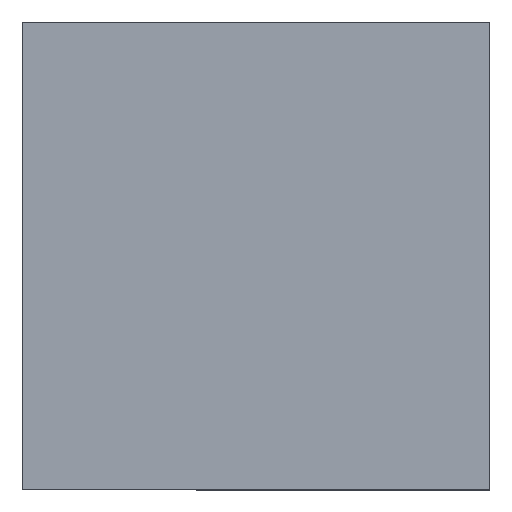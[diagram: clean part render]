
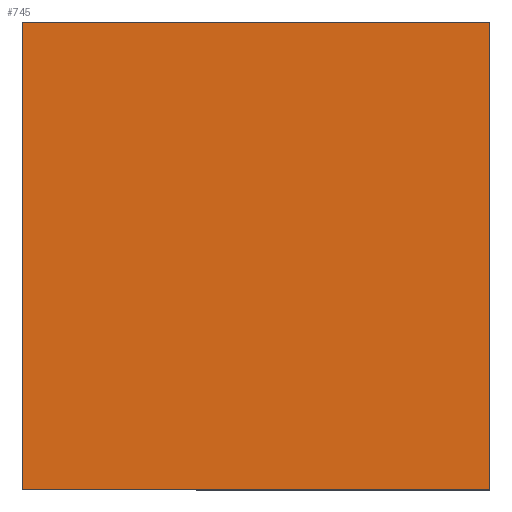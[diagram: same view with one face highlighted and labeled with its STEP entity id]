
A CAD part, top view. The second image highlights one B-rep face of the part: STEP entity #745.
In plain terms, the highlighted planar face has unit normal (0, 0, 1).
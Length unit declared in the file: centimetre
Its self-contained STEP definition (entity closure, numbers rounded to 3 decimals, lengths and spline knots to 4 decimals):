
#38 = LINE ( 'NONE', #429, #449 ) ;
#86 = ORIENTED_EDGE ( 'NONE', *, *, #650, .T. ) ;
#109 = DIRECTION ( 'NONE',  ( -1., 0., 0. ) ) ;
#121 = LINE ( 'NONE', #371, #777 ) ;
#168 = DIRECTION ( 'NONE',  ( 1., 0., 0. ) ) ;
#238 = EDGE_CURVE ( 'NONE', #259, #428, #38, .T. ) ;
#259 = VERTEX_POINT ( 'NONE', #747 ) ;
#278 = CARTESIAN_POINT ( 'NONE',  ( 0., 0., 1000. ) ) ;
#285 = DIRECTION ( 'NONE',  ( 0., 0., 1. ) ) ;
#307 = CARTESIAN_POINT ( 'NONE',  ( 1000., 0., 1000. ) ) ;
#309 = CARTESIAN_POINT ( 'NONE',  ( 0., 0., 1000. ) ) ;
#310 = LINE ( 'NONE', #789, #730 ) ;
#323 = AXIS2_PLACEMENT_3D ( 'NONE', #278, #285, #352 ) ;
#352 = DIRECTION ( 'NONE',  ( 1., 0., 0. ) ) ;
#353 = VERTEX_POINT ( 'NONE', #309 ) ;
#358 = VECTOR ( 'NONE', #578, 100. ) ;
#371 = CARTESIAN_POINT ( 'NONE',  ( 0., 0., 1000. ) ) ;
#393 = ORIENTED_EDGE ( 'NONE', *, *, #544, .T. ) ;
#419 = ORIENTED_EDGE ( 'NONE', *, *, #238, .T. ) ;
#428 = VERTEX_POINT ( 'NONE', #455 ) ;
#429 = CARTESIAN_POINT ( 'NONE',  ( 0., 1000., 1000. ) ) ;
#449 = VECTOR ( 'NONE', #109, 100. ) ;
#455 = CARTESIAN_POINT ( 'NONE',  ( 0., 1000., 1000. ) ) ;
#510 = CARTESIAN_POINT ( 'NONE',  ( 1000., 1000., 1000. ) ) ;
#512 = DIRECTION ( 'NONE',  ( 0., -1., 0. ) ) ;
#544 = EDGE_CURVE ( 'NONE', #353, #594, #121, .T. ) ;
#578 = DIRECTION ( 'NONE',  ( 0., 1., 0. ) ) ;
#594 = VERTEX_POINT ( 'NONE', #307 ) ;
#620 = FACE_OUTER_BOUND ( 'NONE', #661, .T. ) ;
#650 = EDGE_CURVE ( 'NONE', #594, #259, #758, .T. ) ;
#661 = EDGE_LOOP ( 'NONE', ( #710, #393, #86, #419 ) ) ;
#668 = EDGE_CURVE ( 'NONE', #428, #353, #310, .T. ) ;
#670 = PLANE ( 'NONE',  #323 ) ;
#710 = ORIENTED_EDGE ( 'NONE', *, *, #668, .T. ) ;
#730 = VECTOR ( 'NONE', #512, 100. ) ;
#745 = ADVANCED_FACE ( 'NONE', ( #620 ), #670, .T. ) ;
#747 = CARTESIAN_POINT ( 'NONE',  ( 1000., 1000., 1000. ) ) ;
#758 = LINE ( 'NONE', #510, #358 ) ;
#777 = VECTOR ( 'NONE', #168, 100. ) ;
#789 = CARTESIAN_POINT ( 'NONE',  ( 0., 1000., 1000. ) ) ;
